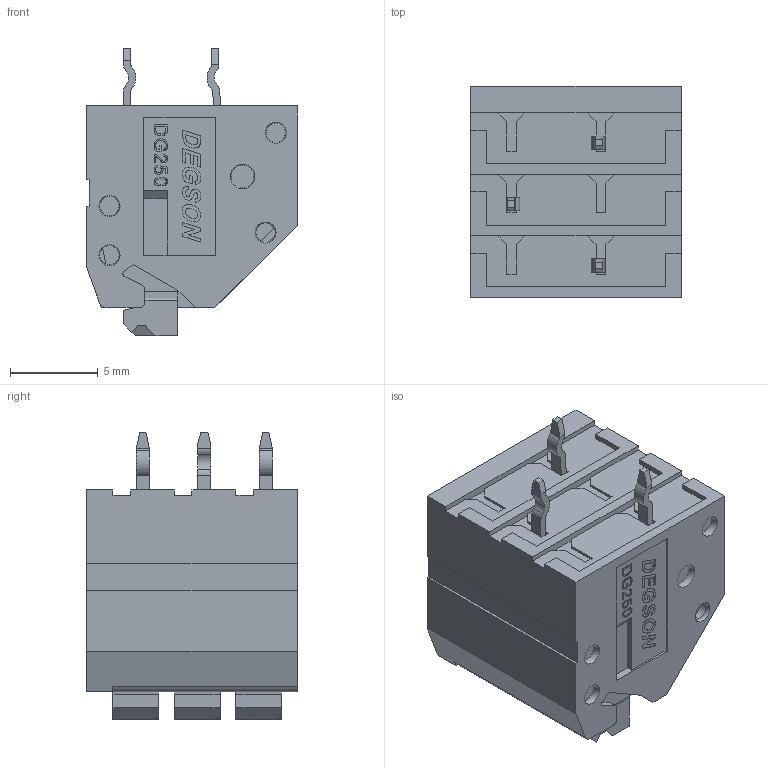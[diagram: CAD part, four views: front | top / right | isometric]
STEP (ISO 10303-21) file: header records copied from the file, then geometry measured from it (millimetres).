
FILE_DESCRIPTION((''),'2;1');
FILE_NAME('000008586_SW0001','2022-02-22T',('Administrator'),(''),'CREO PARAMETRIC BY PTC INC, 2014350','CREO PARAMETRIC BY PTC INC, 2014350','');
FILE_SCHEMA(('CONFIG_CONTROL_DESIGN'));
Length unit declared in the file: millimetre
Products named in the file (1): 000008586_SW0001
Bounding box: 12 x 12 x 16.4 mm (x, y, z)
Volume: 1450.7 mm3; surface area: 1045.5 mm2
Topology: 1 solids, 8 shells, 1380 faces, 3919 edges, 2607 vertices
Faces by surface type: plane 1261, cylinder 81, cone 18, torus 12, bspline 4, extrusion 4
Entity records: 44488 total; most frequent: CARTESIAN_POINT 8492, ORIENTED_EDGE 7838, DIRECTION 6813, EDGE_CURVE 3919, VECTOR 3619, LINE 3615, VERTEX_POINT 2607, AXIS2_PLACEMENT_3D 1597
